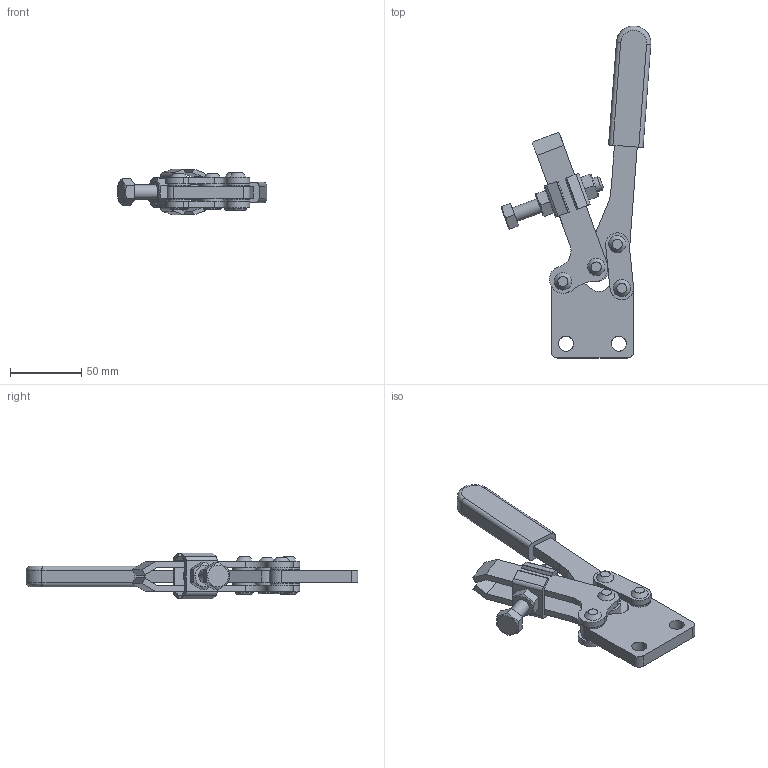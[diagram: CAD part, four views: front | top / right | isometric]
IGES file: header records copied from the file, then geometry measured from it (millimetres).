
Global section: file name: No.38DS (ul); native system: Autodesk Inventor 2020; preprocessor: unknown; author: 高橋善宗,,11,0, ; organization: 16010101.000000; date: 20211201.102808; units: millimetre
Bounding box: 104.97 x 232.77 x 32.24 mm (x, y, z)
Volume: 117445.1 mm3; surface area: 59544.2 mm2
Topology: 24 solids, 24 shells, 229 faces, 518 edges, 353 vertices
Faces by surface type: bspline 229
